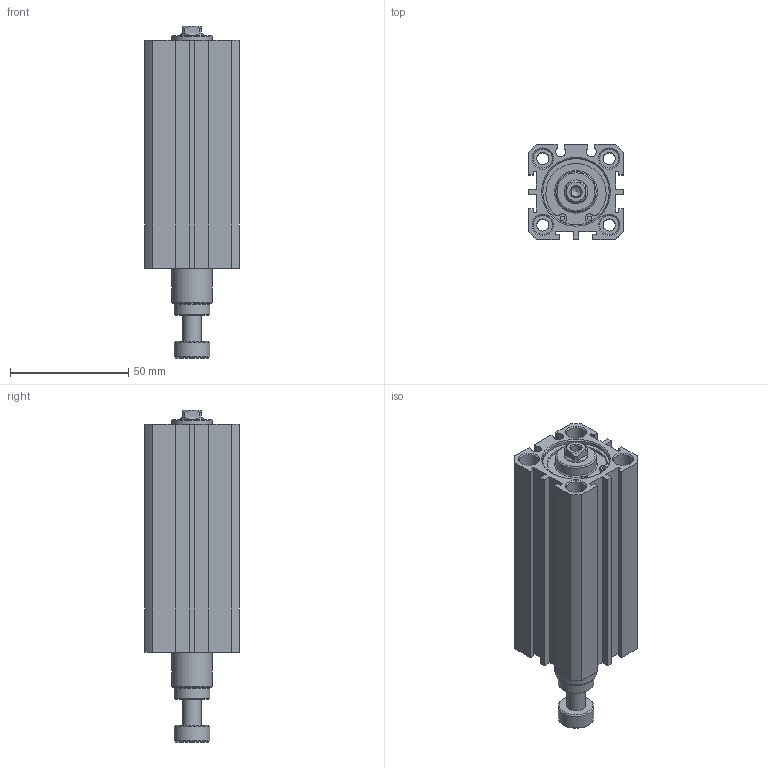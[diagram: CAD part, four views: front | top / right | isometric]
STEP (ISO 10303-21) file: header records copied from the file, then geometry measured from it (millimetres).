
FILE_DESCRIPTION((''),'2;1');
FILE_NAME('I:\3D電子目錄\氣缸\JDAR\JDAR-S\JDAR25-S\JDAR25x65-S.stp','2007-05-05T08:53:43',('662F206'),(''),'Autodesk Inventor 11','Autodesk Inventor 11','');
FILE_SCHEMA(('AUTOMOTIVE_DESIGN { 1 0 10303 214 1 1 1 1 }'));
Length unit declared in the file: millimetre
Products named in the file (3): JDAR25-S; JDAR25; R 形環 28
Assembly tree (3 placements, depth 2):
  JDAR25-S
    JDAR25
    R 形環 28  x2
Bounding box: 40 x 40 x 140.1 mm (x, y, z)
Volume: 131121.6 mm3; surface area: 35912.9 mm2
Topology: 3 solids, 3 shells, 165 faces, 384 edges, 249 vertices
Faces by surface type: plane 86, cylinder 48, cone 21, bspline 8, torus 2
Full cylindrical faces by diameter (mm): 1.5 x2, 1.9 x4, 5.1 x4, 8 x9, 10 x1, 15 x2, 17 x2, 28 x4, 29.4 x2
Entity records: 4249 total; most frequent: CARTESIAN_POINT 853, DIRECTION 706, ORIENTED_EDGE 588, EDGE_CURVE 294, AXIS2_PLACEMENT_3D 269, EDGE_LOOP 242, VERTEX_POINT 222, VECTOR 168
